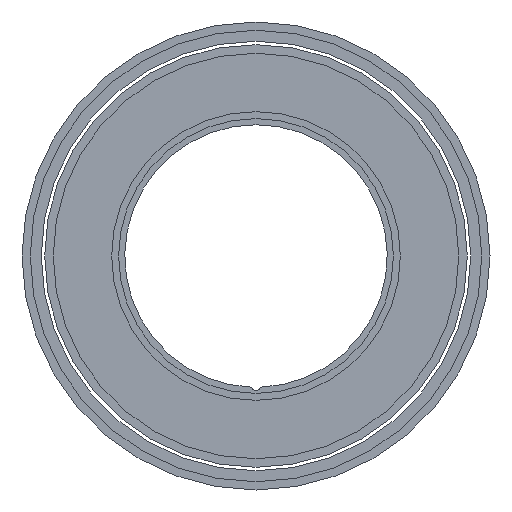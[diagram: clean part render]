
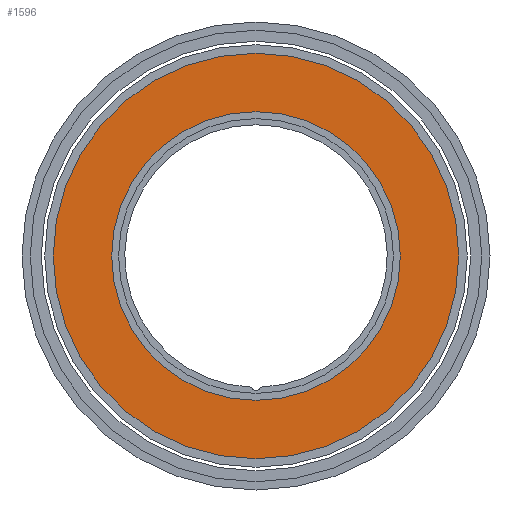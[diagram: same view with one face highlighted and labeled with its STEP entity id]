
A CAD part, front view. The second image highlights one B-rep face of the part: STEP entity #1596.
In plain terms, the highlighted planar face has unit normal (0, -1, 0).
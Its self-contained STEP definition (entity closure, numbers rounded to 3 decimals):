
#5 = CARTESIAN_POINT ( 'NONE',  ( 0., -2.5, 0. ) ) ;
#32 = DIRECTION ( 'NONE',  ( 0., 0., 1. ) ) ;
#33 = EDGE_LOOP ( 'NONE', ( #1060, #963 ) ) ;
#43 = ORIENTED_EDGE ( 'NONE', *, *, #939, .T. ) ;
#69 = AXIS2_PLACEMENT_3D ( 'NONE', #568, #1484, #1491 ) ;
#98 = CIRCLE ( 'NONE', #69, 29.5 ) ;
#119 = AXIS2_PLACEMENT_3D ( 'NONE', #1634, #315, #188 ) ;
#188 = DIRECTION ( 'NONE',  ( 0., 0., 1. ) ) ;
#238 = AXIS2_PLACEMENT_3D ( 'NONE', #1194, #1601, #32 ) ;
#280 = DIRECTION ( 'NONE',  ( 0., 1., 0. ) ) ;
#303 = CARTESIAN_POINT ( 'NONE',  ( 0., -2.5, 0. ) ) ;
#310 = FACE_BOUND ( 'NONE', #1516, .T. ) ;
#315 = DIRECTION ( 'NONE',  ( 0., 1., 0. ) ) ;
#316 = VERTEX_POINT ( 'NONE', #408 ) ;
#375 = CARTESIAN_POINT ( 'NONE',  ( 0., -2.5, -21. ) ) ;
#408 = CARTESIAN_POINT ( 'NONE',  ( 0., -2.5, 29.5 ) ) ;
#436 = FACE_OUTER_BOUND ( 'NONE', #33, .T. ) ;
#494 = CIRCLE ( 'NONE', #119, 21. ) ;
#537 = DIRECTION ( 'NONE',  ( 0., 0., 1. ) ) ;
#550 = PLANE ( 'NONE',  #1510 ) ;
#568 = CARTESIAN_POINT ( 'NONE',  ( 0., -2.5, 0. ) ) ;
#618 = CIRCLE ( 'NONE', #238, 21. ) ;
#630 = VERTEX_POINT ( 'NONE', #375 ) ;
#668 = CARTESIAN_POINT ( 'NONE',  ( 0., -2.5, -29.5 ) ) ;
#709 = VERTEX_POINT ( 'NONE', #1537 ) ;
#724 = VERTEX_POINT ( 'NONE', #668 ) ;
#803 = AXIS2_PLACEMENT_3D ( 'NONE', #5, #280, #537 ) ;
#846 = EDGE_CURVE ( 'NONE', #630, #709, #618, .T. ) ;
#939 = EDGE_CURVE ( 'NONE', #709, #630, #494, .T. ) ;
#963 = ORIENTED_EDGE ( 'NONE', *, *, #1653, .F. ) ;
#965 = DIRECTION ( 'NONE',  ( 0., 1., 0. ) ) ;
#1060 = ORIENTED_EDGE ( 'NONE', *, *, #1205, .F. ) ;
#1132 = CIRCLE ( 'NONE', #803, 29.5 ) ;
#1181 = ORIENTED_EDGE ( 'NONE', *, *, #846, .T. ) ;
#1194 = CARTESIAN_POINT ( 'NONE',  ( 0., -2.5, 0. ) ) ;
#1205 = EDGE_CURVE ( 'NONE', #316, #724, #1132, .T. ) ;
#1445 = DIRECTION ( 'NONE',  ( 0., 0., 1. ) ) ;
#1484 = DIRECTION ( 'NONE',  ( 0., 1., 0. ) ) ;
#1491 = DIRECTION ( 'NONE',  ( 0., 0., 1. ) ) ;
#1510 = AXIS2_PLACEMENT_3D ( 'NONE', #303, #965, #1445 ) ;
#1516 = EDGE_LOOP ( 'NONE', ( #43, #1181 ) ) ;
#1537 = CARTESIAN_POINT ( 'NONE',  ( 0., -2.5, 21. ) ) ;
#1596 = ADVANCED_FACE ( 'NONE', ( #310, #436 ), #550, .F. ) ;
#1601 = DIRECTION ( 'NONE',  ( 0., 1., 0. ) ) ;
#1634 = CARTESIAN_POINT ( 'NONE',  ( 0., -2.5, 0. ) ) ;
#1653 = EDGE_CURVE ( 'NONE', #724, #316, #98, .T. ) ;
